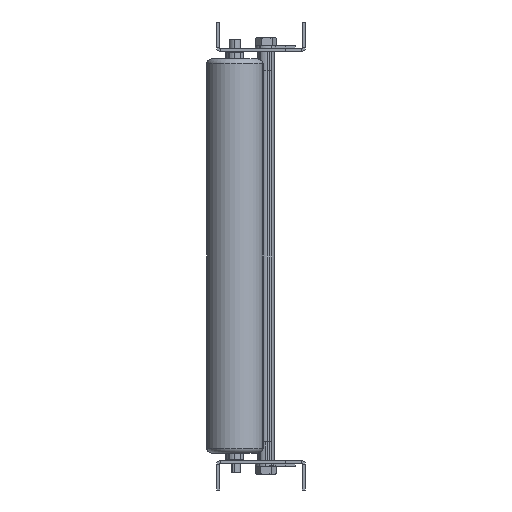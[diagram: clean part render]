
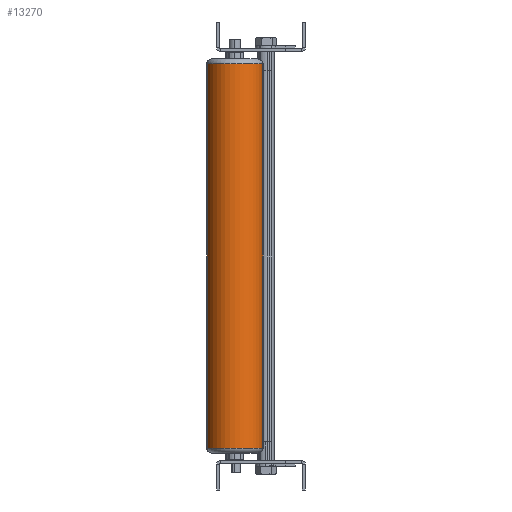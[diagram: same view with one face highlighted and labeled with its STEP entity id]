
A CAD part, left-side view. The second image highlights one B-rep face of the part: STEP entity #13270.
In plain terms, the highlighted cylindrical face has radius 28.6 mm (diameter 57.2 mm), a partial arc.
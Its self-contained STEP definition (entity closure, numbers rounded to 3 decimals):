
#902 = DIRECTION ( 'NONE',  ( 0., 0., 1. ) ) ;
#933 = ORIENTED_EDGE ( 'NONE', *, *, #1904, .F. ) ;
#1319 = VERTEX_POINT ( 'NONE', #1863 ) ;
#1863 = CARTESIAN_POINT ( 'NONE',  ( -1541.898, -343.642, -464.445 ) ) ;
#1904 = EDGE_CURVE ( 'NONE', #16449, #8153, #19302, .T. ) ;
#2864 = VECTOR ( 'NONE', #14371, 1000. ) ;
#3010 = ORIENTED_EDGE ( 'NONE', *, *, #3339, .T. ) ;
#3339 = EDGE_CURVE ( 'NONE', #24272, #8153, #25586, .T. ) ;
#3543 = FACE_OUTER_BOUND ( 'NONE', #30293, .T. ) ;
#4400 = CIRCLE ( 'NONE', #24462, 28.6 ) ;
#4846 = DIRECTION ( 'NONE',  ( 0., 0., 1. ) ) ;
#6127 = AXIS2_PLACEMENT_3D ( 'NONE', #16981, #34474, #8443 ) ;
#7454 = ORIENTED_EDGE ( 'NONE', *, *, #34689, .T. ) ;
#8153 = VERTEX_POINT ( 'NONE', #24282 ) ;
#8443 = DIRECTION ( 'NONE',  ( -0.179, -0.984, 0. ) ) ;
#12499 = DIRECTION ( 'NONE',  ( 0.179, 0.984, 0. ) ) ;
#13270 = ADVANCED_FACE ( 'NONE', ( #3543 ), #15342, .T. ) ;
#14371 = DIRECTION ( 'NONE',  ( 0., 0., 1. ) ) ;
#14672 = CARTESIAN_POINT ( 'NONE',  ( -1536.768, -315.506, -464.445 ) ) ;
#15342 = CYLINDRICAL_SURFACE ( 'NONE', #19219, 28.6 ) ;
#16449 = VERTEX_POINT ( 'NONE', #17460 ) ;
#16981 = CARTESIAN_POINT ( 'NONE',  ( -1536.768, -315.506, -74.445 ) ) ;
#17339 = DIRECTION ( 'NONE',  ( 0., 0., 1. ) ) ;
#17460 = CARTESIAN_POINT ( 'NONE',  ( -1531.639, -287.37, -464.445 ) ) ;
#17715 = EDGE_CURVE ( 'NONE', #1319, #24272, #33961, .T. ) ;
#19219 = AXIS2_PLACEMENT_3D ( 'NONE', #24473, #902, #12499 ) ;
#19302 = LINE ( 'NONE', #30897, #23039 ) ;
#21324 = CARTESIAN_POINT ( 'NONE',  ( -1541.898, -343.642, -74.445 ) ) ;
#22692 = DIRECTION ( 'NONE',  ( -0.179, -0.984, 0. ) ) ;
#23039 = VECTOR ( 'NONE', #4846, 1000. ) ;
#24272 = VERTEX_POINT ( 'NONE', #21324 ) ;
#24282 = CARTESIAN_POINT ( 'NONE',  ( -1531.639, -287.37, -74.445 ) ) ;
#24462 = AXIS2_PLACEMENT_3D ( 'NONE', #14672, #17339, #22692 ) ;
#24473 = CARTESIAN_POINT ( 'NONE',  ( -1536.768, -315.506, -469.445 ) ) ;
#25586 = CIRCLE ( 'NONE', #6127, 28.6 ) ;
#28438 = CARTESIAN_POINT ( 'NONE',  ( -1541.898, -343.642, -469.445 ) ) ;
#30293 = EDGE_LOOP ( 'NONE', ( #7454, #36461, #3010, #933 ) ) ;
#30897 = CARTESIAN_POINT ( 'NONE',  ( -1531.639, -287.37, -469.445 ) ) ;
#33961 = LINE ( 'NONE', #28438, #2864 ) ;
#34474 = DIRECTION ( 'NONE',  ( 0., 0., -1. ) ) ;
#34689 = EDGE_CURVE ( 'NONE', #16449, #1319, #4400, .T. ) ;
#36461 = ORIENTED_EDGE ( 'NONE', *, *, #17715, .T. ) ;
